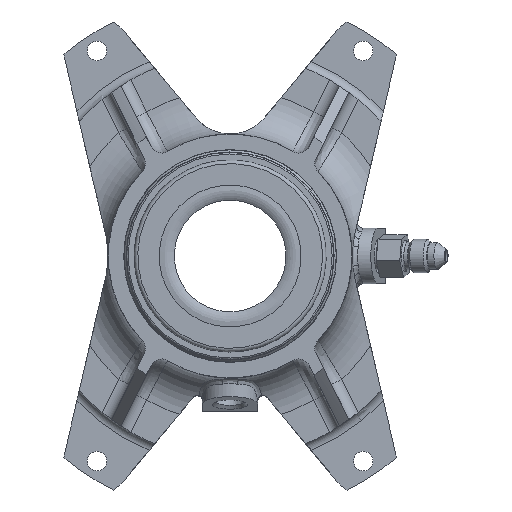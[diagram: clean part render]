
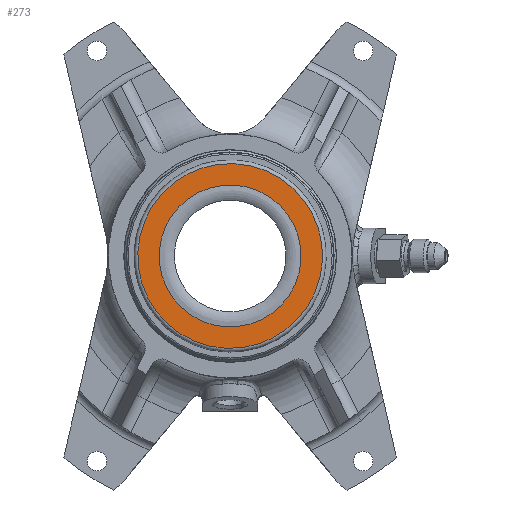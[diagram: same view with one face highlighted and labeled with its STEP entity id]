
A CAD part, left-side view. The second image highlights one B-rep face of the part: STEP entity #273.
In plain terms, the highlighted planar face has unit normal (-1, 0, 0).
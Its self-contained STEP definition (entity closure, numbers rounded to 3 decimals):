
#273 = ADVANCED_FACE( '', ( #759, #760 ), #761, .T. );
#759 = FACE_BOUND( '', #1946, .T. );
#760 = FACE_OUTER_BOUND( '', #1947, .T. );
#761 = PLANE( '', #1948 );
#1946 = EDGE_LOOP( '', ( #5012 ) );
#1947 = EDGE_LOOP( '', ( #5013 ) );
#1948 = AXIS2_PLACEMENT_3D( '', #5014, #5015, #5016 );
#5012 = ORIENTED_EDGE( '', *, *, #7002, .T. );
#5013 = ORIENTED_EDGE( '', *, *, #6992, .F. );
#5014 = CARTESIAN_POINT( '', ( -63.398, -23.549, 12.052 ) );
#5015 = DIRECTION( '', ( -1., 0., 0. ) );
#5016 = DIRECTION( '', ( 0., 0.89, -0.456 ) );
#6992 = EDGE_CURVE( '', #7825, #7825, #7826, .T. );
#7002 = EDGE_CURVE( '', #7840, #7840, #7841, .T. );
#7825 = VERTEX_POINT( '', #9432 );
#7826 = CIRCLE( '', #9433, 26.454 );
#7840 = VERTEX_POINT( '', #9476 );
#7841 = CIRCLE( '', #9477, 19.812 );
#9432 = CARTESIAN_POINT( '', ( -63.398, -23.549, 12.052 ) );
#9433 = AXIS2_PLACEMENT_3D( '', #14527, #14528, #14529 );
#9476 = CARTESIAN_POINT( '', ( -63.398, -14.302, -13.71 ) );
#9477 = AXIS2_PLACEMENT_3D( '', #14542, #14543, #14544 );
#14527 = CARTESIAN_POINT( '', ( -63.398, 0., 0. ) );
#14528 = DIRECTION( '', ( 1., 0., 0. ) );
#14529 = DIRECTION( '', ( 0., -0.89, 0.456 ) );
#14542 = CARTESIAN_POINT( '', ( -63.398, 0., 0. ) );
#14543 = DIRECTION( '', ( 1., 0., 0. ) );
#14544 = DIRECTION( '', ( 0., -0.722, -0.692 ) );
